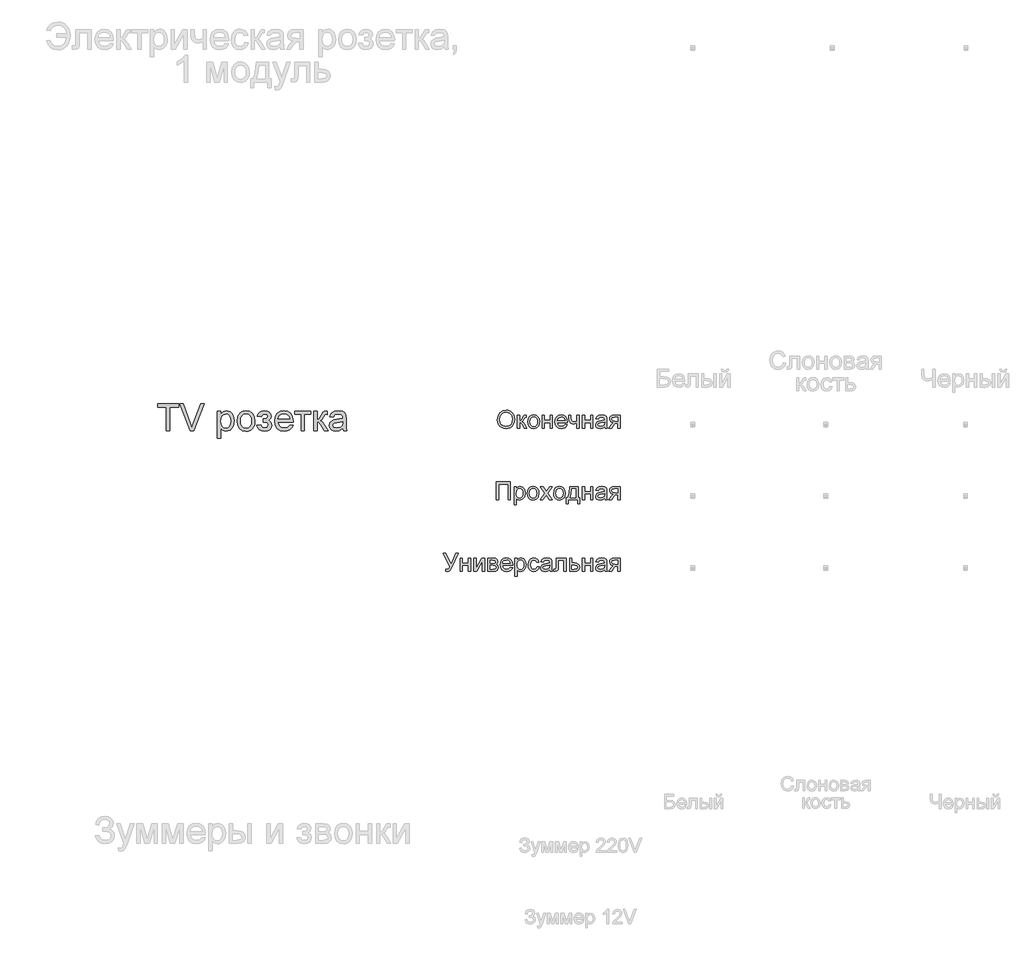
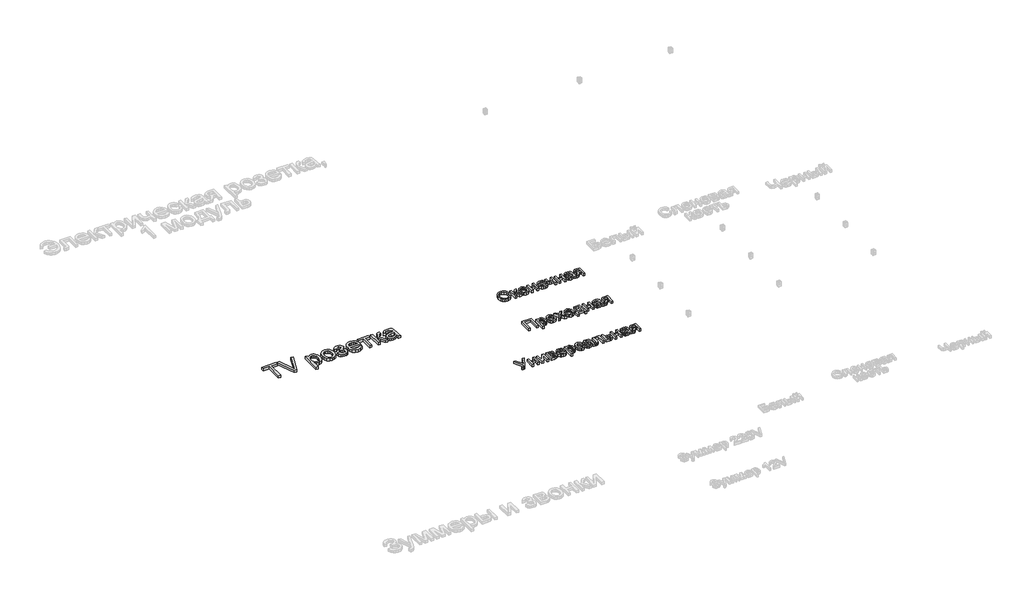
# One storey, part 9 of 47: 4 proxies.
"""IFC4 building model written with IfcOpenShell, lengths in millimetres."""

from ifc_helpers import new_model, si_unit, origin, origin_with_axes, place, context, project, spatial, polyline, outline, extrude, element, save

model = new_model("IFC4")

# Units and contexts
model_context = context("Model", 3, world=origin())
ifc_project = project(units=[si_unit("LENGTHUNIT", "METRE", prefix="MILLI")], contexts=[model_context])

# Site, building, storey
site = spatial("IfcSite", under=ifc_project)
building = spatial("IfcBuilding", under=site)
storey = spatial("IfcBuildingStorey", under=building, Name="Этаж 01", Elevation=0.0)

# Proxies
placement = place(None, origin())
element("IfcBuildingElementProxy", 1, Name="150 мм Arial", ObjectType="150 мм Arial", at=placement, inside=storey, context=model_context, shape_type="SweptSolid", body=[
    extrude(outline(polyline([(-2939.67305, -15476.1363637), (-2939.67305, -15344.2874567), (-2989.1163902, -15344.2874567), (-2989.1163902, -15325.4518985), (-2871.3941517, -15325.4518985), (-2871.3941517, -15344.2874567), (-2920.8374919, -15344.2874567), (-2920.8374919, -15476.1363637), (-2939.67305, -15476.1363637)])), origin_with_axes(), (0.0, 0.0, 1.0), 20.0),
    extrude(outline(polyline([(-2805.6904274, -15476.1363637), (-2865.6551926, -15325.4518985), (-2845.4952593, -15325.4518985), (-2805.3593336, -15434.0138753), (-2797.2291415, -15458.478028), (-2789.209314, -15434.0138753), (-2748.9630237, -15325.4518985), (-2728.8030904, -15325.4518985), (-2786.2294698, -15476.1363637), (-2805.6904274, -15476.1363637)])), origin_with_axes(), (0.0, 0.0, 1.0), 20.0),
    extrude(outline(polyline([(-2654.785233, -15518.5163696), (-2654.785233, -15365.4774596), (-2635.9496748, -15365.4774596), (-2635.9496748, -15383.9451357), (-2622.9266522, -15368.3285451), (-2605.3418928, -15363.1230148), (-2592.6039787, -15364.9440307), (-2581.4663513, -15370.4070783), (-2572.3980601, -15379.1810639), (-2565.8681547, -15390.9348937), (-2560.6074422, -15419.9607831), (-2562.0927657, -15436.0694159), (-2566.5487364, -15450.4765946), (-2573.8327999, -15462.4511535), (-2583.802402, -15471.2619273), (-2595.4136775, -15476.6835882), (-2607.6227612, -15478.4908085), (-2624.0119041, -15473.6531603), (-2635.9496748, -15461.4210839), (-2635.9496748, -15518.5163696), (-2654.785233, -15518.5163696)]), holes=[polyline([(-2635.9496748, -15421.6898285), (-2633.9125283, -15438.575612), (-2627.8010886, -15450.3846241), (-2618.7833812, -15457.3375938), (-2608.0274314, -15459.6552504), (-2597.0967376, -15457.2548203), (-2587.8491039, -15450.0535303), (-2581.5445262, -15437.8122569), (-2579.4430003, -15420.2918769), (-2581.4939425, -15403.4980638), (-2587.6467688, -15391.5235048), (-2596.6506807, -15384.3498059), (-2607.2548792, -15381.958573), (-2617.9004644, -15384.5015573), (-2627.2492656, -15392.1305101), (-2633.7745725, -15404.6063083), (-2635.9496748, -15421.6898285)])]), origin_with_axes(), (0.0, 0.0, 1.0), 20.0),
    extrude(outline(polyline([(-2544.1263288, -15420.8069117), (-2540.0520357, -15394.12627), (-2527.8291564, -15375.3734853), (-2512.7276005, -15366.1856324), (-2494.6462005, -15363.1230148), (-2474.8587476, -15366.8524185), (-2459.0536174, -15378.0406297), (-2448.6931407, -15395.8047316), (-2445.2396485, -15419.2618073), (-2446.7663588, -15438.2905035), (-2451.3464896, -15452.775857), (-2458.8466838, -15463.6237774), (-2469.1335841, -15471.7401739), (-2481.3518649, -15476.8031499), (-2494.6462005, -15478.4908085), (-2514.6727766, -15474.7752004), (-2530.4595127, -15463.6283759), (-2540.7096248, -15445.4917935), (-2544.1263288, -15420.8069117)]), holes=[polyline([(-2525.2907707, -15420.7701235), (-2523.1110698, -15437.8168554), (-2516.5719674, -15449.9615598), (-2506.731124, -15457.2318277), (-2494.6462005, -15459.6552504), (-2482.6164592, -15457.2180321), (-2472.7940099, -15449.9063775), (-2466.2549075, -15437.6007247), (-2464.0752067, -15420.1815123), (-2466.2687031, -15403.631421), (-2472.8491922, -15391.6522635), (-2482.6854371, -15384.3819956), (-2494.6462005, -15381.958573), (-2506.731124, -15384.3727986), (-2516.5719674, -15391.6154753), (-2523.1110698, -15403.7325886), (-2525.2907707, -15420.7701235)])]), origin_with_axes(), (0.0, 0.0, 1.0), 20.0),
    extrude(outline(polyline([(-2398.1507531, -15426.6930236), (-2398.1507531, -15407.8574654), (-2383.2883205, -15407.1217014), (-2375.7835278, -15403.2037582), (-2372.2518607, -15395.0183838), (-2376.9791443, -15385.5086342), (-2389.1744324, -15381.958573), (-2401.7743908, -15385.4902401), (-2409.922977, -15396.0852416), (-2431.1129799, -15393.7307968), (-2425.4935824, -15380.3398922), (-2416.9495231, -15370.7749603), (-2405.4808019, -15365.0360012), (-2391.0874188, -15363.1230148), (-2375.3420694, -15365.454467), (-2363.4226928, -15372.4488234), (-2355.9179001, -15382.6805414), (-2353.4163025, -15394.7240782), (-2356.9755608, -15406.4227257), (-2367.6533357, -15415.4726227), (-2355.2005302, -15427.2080584), (-2351.0618577, -15444.093842), (-2353.6876155, -15457.9583947), (-2361.5648887, -15468.9442707), (-2374.1602485, -15476.1041741), (-2390.940266, -15478.4908085), (-2407.3524015, -15476.2835165), (-2419.9109731, -15469.6616406), (-2428.6159808, -15458.6251808), (-2433.4674247, -15443.174137), (-2412.2774217, -15440.8196922), (-2403.7793476, -15454.7256316), (-2389.1376442, -15459.6552504), (-2375.3788576, -15454.9279667), (-2369.8974159, -15442.8430432), (-2373.3003243, -15432.9470175), (-2380.5475997, -15427.6495168), (-2394.4719332, -15426.582659), (-2398.1507531, -15426.6930236)])), origin_with_axes(), (0.0, 0.0, 1.0), 20.0),
    extrude(outline(polyline([(-2250.0414619, -15443.174137), (-2231.5737857, -15445.5285817), (-2238.2278513, -15459.4437182), (-2248.8458454, -15469.8455816), (-2263.1886447, -15476.3295018), (-2281.0171259, -15478.4908085), (-2303.1176367, -15474.7614048), (-2320.1229819, -15463.5731936), (-2330.9663038, -15445.6527419), (-2334.5807444, -15421.7266167), (-2330.9295156, -15396.9957495), (-2319.9758291, -15378.5004822), (-2303.2004102, -15366.9673817), (-2282.0839836, -15363.1230148), (-2261.6251462, -15366.9581846), (-2245.27739, -15378.463694), (-2234.5582284, -15396.9221731), (-2230.9851745, -15421.6162521), (-2231.0955391, -15426.6930236), (-2315.7451862, -15426.6930236), (-2312.484832, -15440.7921011), (-2304.9110614, -15451.1571763), (-2293.9803677, -15457.5307318), (-2280.6492439, -15459.6552504), (-2262.1815677, -15455.718913), (-2250.0414619, -15443.174137)]), holes=[polyline([(-2315.7451862, -15407.8574654), (-2249.8207327, -15407.8574654), (-2252.3683155, -15397.9062575), (-2257.3623136, -15390.7877409), (-2268.3435911, -15384.1658649), (-2282.15756, -15381.958573), (-2294.8540874, -15383.719808), (-2305.3525198, -15389.0035132), (-2312.6503789, -15397.2394713), (-2315.7451862, -15407.8574654)])]), origin_with_axes(), (0.0, 0.0, 1.0), 20.0),
    extrude(outline(polyline([(-2221.5673954, -15365.4774596), (-2132.0984942, -15365.4774596), (-2132.0984942, -15384.3130177), (-2167.4151657, -15384.3130177), (-2167.4151657, -15476.1363637), (-2186.2507239, -15476.1363637), (-2186.2507239, -15384.3130177), (-2221.5673954, -15384.3130177), (-2221.5673954, -15365.4774596)])), origin_with_axes(), (0.0, 0.0, 1.0), 20.0),
    extrude(outline(polyline([(-2115.6173808, -15365.4774596), (-2096.7818227, -15365.4774596), (-2096.7818227, -15412.566355), (-2084.1634702, -15409.1818406), (-2073.8259862, -15389.4633657), (-2065.2359416, -15372.4488234), (-2057.6575725, -15366.9121994), (-2043.8803918, -15365.4774596), (-2040.2751482, -15365.4774596), (-2040.2751482, -15384.4233823), (-2045.3519197, -15384.3130177), (-2054.5489696, -15386.2995805), (-2061.0236927, -15398.6972038), (-2068.6204559, -15412.1065025), (-2079.2706397, -15418.6731961), (-2067.3880513, -15426.0032448), (-2055.726192, -15441.4450916), (-2035.5662587, -15476.1363637), (-2056.9769908, -15476.1363637), (-2076.7322539, -15442.1808556), (-2086.6650678, -15427.8150637), (-2096.7818227, -15424.3385788), (-2096.7818227, -15476.1363637), (-2115.6173808, -15476.1363637), (-2115.6173808, -15365.4774596)])), origin_with_axes(), (0.0, 0.0, 1.0), 20.0),
    extrude(outline(polyline([(-1953.1606918, -15462.0096951), (-1971.4260328, -15474.7752004), (-1991.6043603, -15478.4908085), (-2007.3451111, -15476.2559254), (-2018.9563866, -15469.551276), (-2026.1162899, -15459.3701418), (-2028.5029244, -15446.7058041), (-2024.8976808, -15431.8065833), (-2015.4247194, -15420.9908527), (-2002.2361499, -15414.8104351), (-1985.9389775, -15411.9777438), (-1953.2710564, -15405.5030207), (-1953.1606918, -15401.3091659), (-1954.4574758, -15392.9030623), (-1958.3478279, -15387.4032265), (-1967.0482371, -15383.3197364), (-1979.1699488, -15381.958573), (-1998.2262362, -15385.5822106), (-2007.3129214, -15398.4396864), (-2026.1484796, -15396.0852416), (-2017.9998934, -15377.6911418), (-2001.5923564, -15366.9121994), (-1976.7419276, -15363.1230148), (-1953.9148498, -15366.470741), (-1941.0205859, -15374.8768446), (-1935.2448386, -15387.6607439), (-1934.3251336, -15404.1418573), (-1934.3251336, -15427.5759404), (-1933.3686404, -15460.2990438), (-1929.6162441, -15476.1363637), (-1948.4518022, -15476.1363637), (-1953.1606918, -15462.0096951)]), holes=[polyline([(-1953.1606918, -15424.3385788), (-1983.5477446, -15430.1143261), (-1999.7529464, -15433.1677467), (-2007.0921922, -15438.1341536), (-2009.6673662, -15445.3814289), (-2004.0571658, -15455.5717602), (-1987.5944465, -15459.6552504), (-1968.5381592, -15455.1486959), (-1956.2509005, -15444.2409948), (-1953.2710564, -15429.6728677), (-1953.1606918, -15424.3385788)])]), origin_with_axes(), (0.0, 0.0, 1.0), 20.0),
])
element("IfcBuildingElementProxy", 2, Name="100 мм Arial", ObjectType="100 мм Arial", at=placement, inside=storey, context=model_context, shape_type="SweptSolid", body=[
    extrude(outline(polyline([(-1087.5478561, -15413.3079892), (-1084.2001299, -15391.0940481), (-1074.1569515, -15374.2879722), (-1058.8224036, -15363.7113649), (-1039.6005694, -15360.1858291), (-1026.4242626, -15361.8412981), (-1014.6091192, -15366.807705), (-1004.7989326, -15374.735562), (-997.6374965, -15385.2753812), (-993.2597007, -15397.9182591), (-991.8004355, -15412.1552923), (-993.3363428, -15426.5823979), (-997.9440648, -15439.4030854), (-1005.3691497, -15449.9612986), (-1015.3571459, -15457.6009814), (-1027.0711218, -15462.2362946), (-1039.6741458, -15463.7813989), (-1053.0527877, -15462.0738133), (-1064.9353761, -15456.9510566), (-1074.7210372, -15448.8760468), (-1081.808897, -15438.3117021), (-1087.5478561, -15413.3079892)]), holes=[polyline([(-1074.9908173, -15413.4306165), (-1072.4800227, -15429.1453091), (-1064.9476388, -15441.119868), (-1053.6260704, -15448.6982371), (-1039.7477222, -15451.2243602), (-1025.6670388, -15448.6737117), (-1014.3270763, -15441.0217662), (-1006.8498748, -15428.6793252), (-1004.3574742, -15412.0571904), (-1008.6249054, -15391.3331713), (-1021.096105, -15377.6111729), (-1039.526993, -15372.7428679), (-1053.0343936, -15375.0881156), (-1064.5184432, -15382.1238587), (-1072.3727238, -15394.6410436), (-1074.9908173, -15413.4306165)])]), origin_with_axes(), (0.0, 0.0, 1.0), 20.0),
    extrude(outline(polyline([(-976.104137, -15388.4391663), (-963.5470982, -15388.4391663), (-963.5470982, -15419.8317632), (-955.1348633, -15417.5754203), (-948.2432072, -15404.4297704), (-942.5165109, -15393.0867422), (-937.4642648, -15389.3956595), (-928.2794776, -15388.4391663), (-925.8759819, -15388.4391663), (-925.8759819, -15401.0697815), (-929.2604963, -15400.9962051), (-935.3918629, -15402.3205803), (-939.708345, -15410.5856624), (-944.7728538, -15419.5251949), (-951.8729763, -15423.9029907), (-943.9512506, -15428.7896898), (-936.1766778, -15439.0842543), (-922.7367222, -15462.2117691), (-937.0105437, -15462.2117691), (-950.1807191, -15439.5747637), (-956.802595, -15429.997569), (-963.5470982, -15427.6799125), (-963.5470982, -15462.2117691), (-976.104137, -15462.2117691), (-976.104137, -15388.4391663)])), origin_with_axes(), (0.0, 0.0, 1.0), 20.0),
    extrude(outline(polyline([(-918.0278327, -15425.3254677), (-915.3116373, -15407.5383732), (-907.1630511, -15395.0365168), (-897.0953472, -15388.9112815), (-885.0410805, -15386.8695365), (-871.8494453, -15389.3558056), (-861.3126918, -15396.8146131), (-854.4057073, -15408.6573476), (-852.1033792, -15424.2953981), (-856.1746066, -15446.638098), (-868.0326696, -15459.2809759), (-885.0410805, -15463.7813989), (-898.3921312, -15461.3043268), (-908.916622, -15453.8731105), (-915.75003, -15441.7820556), (-918.0278327, -15425.3254677)]), holes=[polyline([(-905.4707939, -15425.3009422), (-904.0176601, -15436.6654302), (-899.6582584, -15444.7618998), (-893.0976962, -15449.6087451), (-885.0410805, -15451.2243602), (-877.021253, -15449.599548), (-870.4729535, -15444.7251116), (-866.1135518, -15436.5213431), (-864.6604179, -15424.9085348), (-866.1227489, -15413.8751406), (-870.5097417, -15405.8890356), (-877.0672382, -15401.0421903), (-885.0410805, -15399.4265752), (-893.0976962, -15401.036059), (-899.6582584, -15405.8645102), (-904.0176601, -15413.9425856), (-905.4707939, -15425.3009422)])]), origin_with_axes(), (0.0, 0.0, 1.0), 20.0),
    extrude(outline(polyline([(-837.9767106, -15388.4391663), (-825.4196718, -15388.4391663), (-825.4196718, -15416.6925036), (-792.457445, -15416.6925036), (-792.457445, -15388.4391663), (-779.9004063, -15388.4391663), (-779.9004063, -15462.2117691), (-792.457445, -15462.2117691), (-792.457445, -15429.2495423), (-825.4196718, -15429.2495423), (-825.4196718, -15462.2117691), (-837.9767106, -15462.2117691), (-837.9767106, -15388.4391663)])), origin_with_axes(), (0.0, 0.0, 1.0), 20.0),
    extrude(outline(polyline([(-709.414216, -15440.2369512), (-697.1024319, -15441.8065811), (-701.5384756, -15451.0833387), (-708.6171383, -15458.0179143), (-718.1790045, -15462.3405278), (-730.0646586, -15463.7813989), (-744.7983325, -15461.2951298), (-756.1352294, -15453.8363223), (-763.3641106, -15441.8893545), (-765.7737376, -15425.9386044), (-763.3395851, -15409.4513596), (-756.0371275, -15397.1211814), (-744.8535148, -15389.4324477), (-730.7758972, -15386.8695365), (-717.1366722, -15389.4263163), (-706.2381681, -15397.0966559), (-699.0920603, -15409.4023087), (-696.7100244, -15425.865028), (-696.7836008, -15429.2495423), (-753.2166989, -15429.2495423), (-751.0431294, -15438.6489273), (-745.993949, -15445.5589774), (-738.7068198, -15449.8080145), (-729.819404, -15451.2243602), (-717.5076199, -15448.6001353), (-709.414216, -15440.2369512)]), holes=[polyline([(-753.2166989, -15416.6925036), (-709.2670632, -15416.6925036), (-714.2947838, -15405.3126872), (-721.6156355, -15400.8981032), (-730.8249481, -15399.4265752), (-746.2882546, -15404.123202), (-751.153494, -15409.6138408), (-753.2166989, -15416.6925036)])]), origin_with_axes(), (0.0, 0.0, 1.0), 20.0),
    extrude(outline(polyline([(-688.8618752, -15388.4391663), (-676.3048364, -15388.4391663), (-676.3048364, -15402.5903604), (-675.2870296, -15415.8586377), (-670.394199, -15423.0445993), (-660.6821143, -15426.1102826), (-643.3426096, -15422.3088353), (-643.3426096, -15388.4391663), (-630.7855709, -15388.4391663), (-630.7855709, -15462.2117691), (-643.3426096, -15462.2117691), (-643.3426096, -15434.3508393), (-664.0421032, -15438.6673214), (-678.2791364, -15434.1668983), (-686.6545832, -15423.1427012), (-688.8618752, -15408.7953034), (-688.8618752, -15388.4391663)])), origin_with_axes(), (0.0, 0.0, 1.0), 20.0),
    extrude(outline(polyline([(-611.9500127, -15388.4391663), (-599.392974, -15388.4391663), (-599.392974, -15416.6925036), (-566.4307472, -15416.6925036), (-566.4307472, -15388.4391663), (-553.8737084, -15388.4391663), (-553.8737084, -15462.2117691), (-566.4307472, -15462.2117691), (-566.4307472, -15429.2495423), (-599.392974, -15429.2495423), (-599.392974, -15462.2117691), (-611.9500127, -15462.2117691), (-611.9500127, -15388.4391663)])), origin_with_axes(), (0.0, 0.0, 1.0), 20.0),
    extrude(outline(polyline([(-487.9492549, -15452.79399), (-500.1261489, -15461.3043268), (-513.5783672, -15463.7813989), (-524.0722011, -15462.2914769), (-531.8130514, -15457.8217106), (-536.5863203, -15451.0342878), (-538.17741, -15442.591396), (-535.7739143, -15432.6585821), (-529.4586067, -15425.448095), (-520.666227, -15421.3278167), (-509.8014454, -15419.4393558), (-488.0228313, -15415.1228737), (-487.9492549, -15412.3269705), (-491.4073456, -15403.0563443), (-505.2887596, -15399.4265752), (-517.9929512, -15401.8423337), (-524.0507413, -15410.4139842), (-536.6077801, -15408.8443543), (-531.1753893, -15396.5816211), (-520.2370313, -15389.3956595), (-503.6700788, -15386.8695365), (-488.4520269, -15389.1013539), (-479.855851, -15394.705423), (-476.0053528, -15403.2280225), (-475.3922161, -15414.2154314), (-475.3922161, -15429.8381535), (-474.754554, -15451.6535558), (-472.2529564, -15462.2117691), (-484.8099952, -15462.2117691), (-487.9492549, -15452.79399)]), holes=[polyline([(-487.9492549, -15427.6799125), (-508.2072901, -15431.5304107), (-519.010758, -15433.5660244), (-523.9035885, -15436.8769624), (-525.6203712, -15441.7084792), (-521.8802376, -15448.5020334), (-510.9050914, -15451.2243602), (-498.2008998, -15448.2199905), (-490.0093941, -15440.9481898), (-488.0228313, -15431.2361051), (-487.9492549, -15427.6799125)])]), origin_with_axes(), (0.0, 0.0, 1.0), 20.0),
    extrude(outline(polyline([(-401.6196133, -15388.4391663), (-401.6196133, -15462.2117691), (-414.1766521, -15462.2117691), (-414.1766521, -15433.9584319), (-421.0192572, -15433.9584319), (-430.3389344, -15435.5525872), (-439.0945259, -15446.270216), (-449.1009162, -15462.2117691), (-463.6199923, -15462.2117691), (-451.0139026, -15442.0518358), (-440.3207992, -15431.6039871), (-448.9047125, -15428.9736308), (-454.9379772, -15423.9765671), (-459.6959176, -15409.7517966), (-458.0711055, -15401.1556206), (-453.1966691, -15394.3498037), (-445.2442866, -15389.9168257), (-434.3856364, -15388.4391663), (-401.6196133, -15388.4391663)]), holes=[polyline([(-414.1766521, -15400.9962051), (-430.7313419, -15400.9962051), (-444.1345093, -15403.9024729), (-447.1388789, -15410.7082898), (-442.7120322, -15418.8139564), (-427.0279965, -15421.4013931), (-414.1766521, -15421.4013931), (-414.1766521, -15400.9962051)])]), origin_with_axes(), (0.0, 0.0, 1.0), 20.0),
])
element("IfcBuildingElementProxy", 3, Name="100 мм Arial", ObjectType="100 мм Arial", at=placement, inside=storey, context=model_context, shape_type="SweptSolid", body=[
    extrude(outline(polyline([(-1093.8263755, -15761.7554589), (-1015.3448832, -15761.7554589), (-1015.3448832, -15862.2117691), (-1027.9019219, -15862.2117691), (-1027.9019219, -15774.3124977), (-1081.2693367, -15774.3124977), (-1081.2693367, -15862.2117691), (-1093.8263755, -15862.2117691), (-1093.8263755, -15761.7554589)])), origin_with_axes(), (0.0, 0.0, 1.0), 20.0),
    extrude(outline(polyline([(-994.9396952, -15890.4651063), (-994.9396952, -15788.4391663), (-982.3826564, -15788.4391663), (-982.3826564, -15800.7509504), (-973.7006413, -15790.33989), (-961.9774684, -15786.8695365), (-946.0604407, -15791.7255788), (-935.661643, -15805.410789), (-932.1545013, -15824.761382), (-936.1153641, -15845.1052563), (-947.6178079, -15858.9621448), (-963.4980473, -15863.7813989), (-974.4241426, -15860.5563001), (-982.3826564, -15852.4015825), (-982.3826564, -15890.4651063), (-994.9396952, -15890.4651063)]), holes=[polyline([(-982.3826564, -15825.9140789), (-981.0245587, -15837.1712679), (-976.9502656, -15845.0439426), (-970.9384607, -15849.6792558), (-963.7678274, -15851.2243602), (-956.4806983, -15849.6240735), (-950.3156091, -15844.8232134), (-946.1125574, -15836.6623645), (-944.7115401, -15824.9821112), (-946.0788348, -15813.7862358), (-950.1807191, -15805.8031965), (-956.183327, -15801.0207306), (-963.2527926, -15799.4265752), (-970.3498495, -15801.1218981), (-976.5823836, -15806.2078667), (-980.9325882, -15814.5250655), (-982.3826564, -15825.9140789)])]), origin_with_axes(), (0.0, 0.0, 1.0), 20.0),
    extrude(outline(polyline([(-921.1670924, -15825.3254677), (-918.450897, -15807.5383732), (-910.3023108, -15795.0365168), (-900.2346069, -15788.9112815), (-888.1803402, -15786.8695365), (-874.988705, -15789.3558056), (-864.4519515, -15796.8146131), (-857.544967, -15808.6573476), (-855.2426389, -15824.2953981), (-859.3138663, -15846.638098), (-871.1719293, -15859.2809759), (-888.1803402, -15863.7813989), (-901.5313909, -15861.3043268), (-912.0558817, -15853.8731105), (-918.8892897, -15841.7820556), (-921.1670924, -15825.3254677)]), holes=[polyline([(-908.6100536, -15825.3009422), (-907.1569197, -15836.6654302), (-902.7975181, -15844.7618998), (-896.2369559, -15849.6087451), (-888.1803402, -15851.2243602), (-880.1605127, -15849.599548), (-873.6122132, -15844.7251116), (-869.2528115, -15836.5213431), (-867.7996776, -15824.9085348), (-869.2620086, -15813.8751406), (-873.6490014, -15805.8890356), (-880.2064979, -15801.0421903), (-888.1803402, -15799.4265752), (-896.2369559, -15801.036059), (-902.7975181, -15805.8645102), (-907.1569197, -15813.9425856), (-908.6100536, -15825.3009422)])]), origin_with_axes(), (0.0, 0.0, 1.0), 20.0),
    extrude(outline(polyline([(-848.9641195, -15862.2117691), (-822.1332593, -15825.129264), (-847.3944896, -15788.4391663), (-832.2868024, -15788.4391663), (-820.0976456, -15806.0975021), (-814.4077374, -15814.4361606), (-809.4781187, -15807.618081), (-795.5967047, -15788.4391663), (-780.4890174, -15788.4391663), (-807.025572, -15825.129264), (-781.4700361, -15862.2117691), (-796.5777234, -15862.2117691), (-811.9551908, -15839.9181202), (-814.7756194, -15835.8468928), (-833.8564322, -15862.2117691), (-848.9641195, -15862.2117691)])), origin_with_axes(), (0.0, 0.0, 1.0), 20.0),
    extrude(outline(polyline([(-773.6218869, -15825.3254677), (-770.9056915, -15807.5383732), (-762.7571053, -15795.0365168), (-752.6894013, -15788.9112815), (-740.6351346, -15786.8695365), (-727.4434994, -15789.3558056), (-716.9067459, -15796.8146131), (-709.9997615, -15808.6573476), (-707.6974333, -15824.2953981), (-711.7686607, -15846.638098), (-723.6267237, -15859.2809759), (-740.6351346, -15863.7813989), (-753.9861854, -15861.3043268), (-764.5106761, -15853.8731105), (-771.3440842, -15841.7820556), (-773.6218869, -15825.3254677)]), holes=[polyline([(-761.0648481, -15825.3009422), (-759.6117142, -15836.6654302), (-755.2523126, -15844.7618998), (-748.6917503, -15849.6087451), (-740.6351346, -15851.2243602), (-732.6153071, -15849.599548), (-726.0670076, -15844.7251116), (-721.707606, -15836.5213431), (-720.2544721, -15824.9085348), (-721.716803, -15813.8751406), (-726.1037958, -15805.8890356), (-732.6612924, -15801.0421903), (-740.6351346, -15799.4265752), (-748.6917503, -15801.036059), (-755.2523126, -15805.8645102), (-759.6117142, -15813.9425856), (-761.0648481, -15825.3009422)])]), origin_with_axes(), (0.0, 0.0, 1.0), 20.0),
    extrude(outline(polyline([(-682.5833558, -15788.4391663), (-635.4944604, -15788.4391663), (-635.4944604, -15849.6547303), (-626.0766813, -15849.6547303), (-626.0766813, -15882.6169571), (-638.6337201, -15882.6169571), (-638.6337201, -15862.2117691), (-690.431505, -15862.2117691), (-690.431505, -15882.6169571), (-702.9885438, -15882.6169571), (-702.9885438, -15849.6547303), (-695.1403946, -15849.6547303), (-685.4405726, -15825.7056124), (-682.5833558, -15788.4391663)]), holes=[polyline([(-671.5959469, -15800.9962051), (-674.5390028, -15829.6051616), (-681.0137259, -15849.6547303), (-648.0514992, -15849.6547303), (-648.0514992, -15800.9962051), (-671.5959469, -15800.9962051)])]), origin_with_axes(), (0.0, 0.0, 1.0), 20.0),
    extrude(outline(polyline([(-611.9500127, -15788.4391663), (-599.392974, -15788.4391663), (-599.392974, -15816.6925036), (-566.4307472, -15816.6925036), (-566.4307472, -15788.4391663), (-553.8737084, -15788.4391663), (-553.8737084, -15862.2117691), (-566.4307472, -15862.2117691), (-566.4307472, -15829.2495423), (-599.392974, -15829.2495423), (-599.392974, -15862.2117691), (-611.9500127, -15862.2117691), (-611.9500127, -15788.4391663)])), origin_with_axes(), (0.0, 0.0, 1.0), 20.0),
    extrude(outline(polyline([(-487.9492549, -15852.79399), (-500.1261489, -15861.3043268), (-513.5783672, -15863.7813989), (-524.0722011, -15862.2914769), (-531.8130514, -15857.8217106), (-536.5863203, -15851.0342878), (-538.17741, -15842.591396), (-535.7739143, -15832.6585821), (-529.4586067, -15825.448095), (-520.666227, -15821.3278167), (-509.8014454, -15819.4393558), (-488.0228313, -15815.1228737), (-487.9492549, -15812.3269705), (-491.4073456, -15803.0563443), (-505.2887596, -15799.4265752), (-517.9929512, -15801.8423337), (-524.0507413, -15810.4139842), (-536.6077801, -15808.8443543), (-531.1753893, -15796.5816211), (-520.2370313, -15789.3956595), (-503.6700788, -15786.8695365), (-488.4520269, -15789.1013539), (-479.855851, -15794.705423), (-476.0053528, -15803.2280225), (-475.3922161, -15814.2154314), (-475.3922161, -15829.8381535), (-474.754554, -15851.6535558), (-472.2529564, -15862.2117691), (-484.8099952, -15862.2117691), (-487.9492549, -15852.79399)]), holes=[polyline([(-487.9492549, -15827.6799125), (-508.2072901, -15831.5304107), (-519.010758, -15833.5660244), (-523.9035885, -15836.8769624), (-525.6203712, -15841.7084792), (-521.8802376, -15848.5020334), (-510.9050914, -15851.2243602), (-498.2008998, -15848.2199905), (-490.0093941, -15840.9481898), (-488.0228313, -15831.2361051), (-487.9492549, -15827.6799125)])]), origin_with_axes(), (0.0, 0.0, 1.0), 20.0),
    extrude(outline(polyline([(-401.6196133, -15788.4391663), (-401.6196133, -15862.2117691), (-414.1766521, -15862.2117691), (-414.1766521, -15833.9584319), (-421.0192572, -15833.9584319), (-430.3389344, -15835.5525872), (-439.0945259, -15846.270216), (-449.1009162, -15862.2117691), (-463.6199923, -15862.2117691), (-451.0139026, -15842.0518358), (-440.3207992, -15831.6039871), (-448.9047125, -15828.9736308), (-454.9379772, -15823.9765671), (-459.6959176, -15809.7517966), (-458.0711055, -15801.1556206), (-453.1966691, -15794.3498037), (-445.2442866, -15789.9168257), (-434.3856364, -15788.4391663), (-401.6196133, -15788.4391663)]), holes=[polyline([(-414.1766521, -15800.9962051), (-430.7313419, -15800.9962051), (-444.1345093, -15803.9024729), (-447.1388789, -15810.7082898), (-442.7120322, -15818.8139564), (-427.0279965, -15821.4013931), (-414.1766521, -15821.4013931), (-414.1766521, -15800.9962051)])]), origin_with_axes(), (0.0, 0.0, 1.0), 20.0),
])
element("IfcBuildingElementProxy", 4, Name="100 мм Arial", ObjectType="100 мм Arial", at=placement, inside=storey, context=model_context, shape_type="SweptSolid", body=[
    extrude(outline(polyline([(-1391.2712313, -16161.7554589), (-1377.3652919, -16161.7554589), (-1347.3215956, -16221.2542403), (-1320.2945317, -16161.7554589), (-1306.5112196, -16161.7554589), (-1344.6483198, -16240.016222), (-1355.022592, -16259.2441877), (-1366.6231376, -16263.7813989), (-1377.9293776, -16262.2117691), (-1377.9293776, -16251.2243602), (-1368.0456147, -16251.2243602), (-1360.7125002, -16248.428457), (-1353.9189461, -16235.69974), (-1391.2712313, -16161.7554589)])), origin_with_axes(), (0.0, 0.0, 1.0), 20.0),
    extrude(outline(polyline([(-1296.3086256, -16188.4391663), (-1283.7515868, -16188.4391663), (-1283.7515868, -16216.6925036), (-1250.7893601, -16216.6925036), (-1250.7893601, -16188.4391663), (-1238.2323213, -16188.4391663), (-1238.2323213, -16262.2117691), (-1250.7893601, -16262.2117691), (-1250.7893601, -16229.2495423), (-1283.7515868, -16229.2495423), (-1283.7515868, -16262.2117691), (-1296.3086256, -16262.2117691), (-1296.3086256, -16188.4391663)])), origin_with_axes(), (0.0, 0.0, 1.0), 20.0),
    extrude(outline(polyline([(-1219.3967632, -16188.4391663), (-1206.8397244, -16188.4391663), (-1206.8397244, -16244.7005861), (-1175.9866877, -16188.4391663), (-1159.750829, -16188.4391663), (-1159.750829, -16262.2117691), (-1172.3078678, -16262.2117691), (-1172.3078678, -16206.2937058), (-1202.9647007, -16262.2117691), (-1219.3967632, -16262.2117691), (-1219.3967632, -16188.4391663)])), origin_with_axes(), (0.0, 0.0, 1.0), 20.0),
    extrude(outline(polyline([(-1140.9152709, -16188.4391663), (-1113.2505448, -16188.4391663), (-1098.0815439, -16190.1191608), (-1089.5466816, -16196.2750528), (-1085.9782262, -16207.0049443), (-1088.1364673, -16215.7237476), (-1094.6357159, -16221.9409533), (-1086.1989554, -16228.7467703), (-1082.8389665, -16240.5803078), (-1084.9665508, -16250.151371), (-1090.0249282, -16256.8897429), (-1098.0324929, -16260.8812625), (-1109.0076391, -16262.2117691), (-1140.9152709, -16262.2117691), (-1140.9152709, -16188.4391663)]), holes=[polyline([(-1128.3582321, -16216.6925036), (-1115.9483461, -16216.6925036), (-1105.7089639, -16216.0548414), (-1100.7302942, -16213.5041929), (-1098.535265, -16208.8934053), (-1102.3857632, -16202.7375132), (-1115.5559386, -16200.9962051), (-1128.3582321, -16200.9962051), (-1128.3582321, -16216.6925036)]), polyline([(-1128.3582321, -16249.6547303), (-1112.9562392, -16249.6547303), (-1099.2955545, -16247.3861247), (-1095.3960053, -16239.5502382), (-1097.5419836, -16233.5047107), (-1103.1337899, -16229.9853063), (-1114.1825125, -16229.2495423), (-1128.3582321, -16229.2495423), (-1128.3582321, -16249.6547303)])]), origin_with_axes(), (0.0, 0.0, 1.0), 20.0),
    extrude(outline(polyline([(-1015.492036, -16240.2369512), (-1003.1802519, -16241.8065811), (-1007.6162956, -16251.0833387), (-1014.6949583, -16258.0179143), (-1024.2568245, -16262.3405278), (-1036.1424786, -16263.7813989), (-1050.8761525, -16261.2951298), (-1062.2130493, -16253.8363223), (-1069.4419306, -16241.8893545), (-1071.8515576, -16225.9386044), (-1069.4174051, -16209.4513596), (-1062.1149475, -16197.1211814), (-1050.9313348, -16189.4324477), (-1036.8537171, -16186.8695365), (-1023.2144922, -16189.4263163), (-1012.3159881, -16197.0966559), (-1005.1698803, -16209.4023087), (-1002.7878444, -16225.865028), (-1002.8614208, -16229.2495423), (-1059.2945189, -16229.2495423), (-1057.1209494, -16238.6489273), (-1052.071769, -16245.5589774), (-1044.7846398, -16249.8080145), (-1035.897224, -16251.2243602), (-1023.5854399, -16248.6001353), (-1015.492036, -16240.2369512)]), holes=[polyline([(-1059.2945189, -16216.6925036), (-1015.3448832, -16216.6925036), (-1020.3726038, -16205.3126872), (-1027.6934555, -16200.8981032), (-1036.9027681, -16199.4265752), (-1052.3660746, -16204.123202), (-1057.231314, -16209.6138408), (-1059.2945189, -16216.6925036)])]), origin_with_axes(), (0.0, 0.0, 1.0), 20.0),
    extrude(outline(polyline([(-990.2308056, -16290.4651063), (-990.2308056, -16188.4391663), (-977.6737669, -16188.4391663), (-977.6737669, -16200.7509504), (-968.9917518, -16190.33989), (-957.2685789, -16186.8695365), (-941.3515512, -16191.7255788), (-930.9527535, -16205.410789), (-927.4456118, -16224.761382), (-931.4064746, -16245.1052563), (-942.9089183, -16258.9621448), (-958.7891578, -16263.7813989), (-969.715253, -16260.5563001), (-977.6737669, -16252.4015825), (-977.6737669, -16290.4651063), (-990.2308056, -16290.4651063)]), holes=[polyline([(-977.6737669, -16225.9140789), (-976.3156692, -16237.1712679), (-972.2413761, -16245.0439426), (-966.2295711, -16249.6792558), (-959.0589379, -16251.2243602), (-951.7718087, -16249.6240735), (-945.6067196, -16244.8232134), (-941.4036678, -16236.6623645), (-940.0026506, -16224.9821112), (-941.3699453, -16213.7862358), (-945.4718295, -16205.8031965), (-951.4744374, -16201.0207306), (-958.5439031, -16199.4265752), (-965.6409599, -16201.1218981), (-971.8734941, -16206.2078667), (-976.2236987, -16214.5250655), (-977.6737669, -16225.9140789)])]), origin_with_axes(), (0.0, 0.0, 1.0), 20.0),
    extrude(outline(polyline([(-866.2300478, -16235.5280617), (-853.673009, -16237.0976915), (-857.1740193, -16248.2659758), (-863.7529757, -16256.7058019), (-872.79061, -16262.0124997), (-883.6676544, -16263.7813989), (-897.0248365, -16261.3135239), (-907.4696194, -16253.9098987), (-914.211057, -16241.8954859), (-916.4582029, -16225.5952478), (-912.6199674, -16204.7363387), (-900.9213199, -16191.3331713), (-883.8393326, -16186.8695365), (-873.2290027, -16188.4023781), (-864.7462571, -16193.0009031), (-858.6608757, -16200.4198566), (-855.2426389, -16210.4139842), (-867.7996776, -16211.983614), (-873.6244759, -16202.5780977), (-883.7412308, -16199.4265752), (-891.8560944, -16200.977811), (-898.297095, -16205.6315182), (-902.5001468, -16213.639083), (-903.9011641, -16225.2518913), (-902.5308037, -16237.0210495), (-898.4197224, -16245.0562054), (-892.0952177, -16249.6823215), (-884.0845873, -16251.2243602), (-872.2510498, -16247.3738619), (-866.2300478, -16235.5280617)])), origin_with_axes(), (0.0, 0.0, 1.0), 20.0),
    extrude(outline(polyline([(-795.5967047, -16252.79399), (-807.7735988, -16261.3043268), (-821.225817, -16263.7813989), (-831.719651, -16262.2914769), (-839.4605013, -16257.8217106), (-844.2337702, -16251.0342878), (-845.8248598, -16242.591396), (-843.4213641, -16232.6585821), (-837.1060565, -16225.448095), (-828.3136768, -16221.3278167), (-817.4488952, -16219.4393558), (-795.6702811, -16215.1228737), (-795.5967047, -16212.3269705), (-799.0547955, -16203.0563443), (-812.9362094, -16199.4265752), (-825.640401, -16201.8423337), (-831.6981912, -16210.4139842), (-844.2552299, -16208.8443543), (-838.8228391, -16196.5816211), (-827.8844812, -16189.3956595), (-811.3175286, -16186.8695365), (-796.0994768, -16189.1013539), (-787.5033008, -16194.705423), (-783.6528026, -16203.2280225), (-783.0396659, -16214.2154314), (-783.0396659, -16229.8381535), (-782.4020038, -16251.6535558), (-779.9004063, -16262.2117691), (-792.457445, -16262.2117691), (-795.5967047, -16252.79399)]), holes=[polyline([(-795.5967047, -16227.6799125), (-815.8547399, -16231.5304107), (-826.6582078, -16233.5660244), (-831.5510384, -16236.8769624), (-833.267821, -16241.7084792), (-829.5276874, -16248.5020334), (-818.5525412, -16251.2243602), (-805.8483496, -16248.2199905), (-797.6568439, -16240.9481898), (-795.6702811, -16231.2361051), (-795.5967047, -16227.6799125)])]), origin_with_axes(), (0.0, 0.0, 1.0), 20.0),
    extrude(outline(polyline([(-759.4952183, -16188.4391663), (-702.9885438, -16188.4391663), (-702.9885438, -16262.1381927), (-715.5455826, -16262.1381927), (-715.5455826, -16200.9962051), (-746.9381795, -16200.9962051), (-746.9381795, -16236.1902493), (-747.7843081, -16252.426108), (-752.4318839, -16259.2809759), (-763.4192929, -16262.2117691), (-773.6218869, -16261.574107), (-773.6218869, -16249.6547303), (-768.0055551, -16249.6547303), (-762.3279096, -16248.8821781), (-760.059304, -16246.4296315), (-759.4952183, -16235.4790108), (-759.4952183, -16188.4391663)])), origin_with_axes(), (0.0, 0.0, 1.0), 20.0),
    extrude(outline(polyline([(-684.1529856, -16188.4391663), (-671.5959469, -16188.4391663), (-671.5959469, -16215.1228737), (-657.1259217, -16215.1228737), (-644.5811457, -16216.6955692), (-635.2982567, -16221.4136558), (-629.5592976, -16228.8969887), (-627.6463112, -16238.7654233), (-629.274189, -16247.750941), (-634.1578225, -16255.3323758), (-642.6221741, -16260.4919208), (-654.9922062, -16262.2117691), (-684.1529856, -16262.2117691), (-684.1529856, -16188.4391663)]), holes=[polyline([(-671.5959469, -16249.6547303), (-659.872774, -16249.6547303), (-644.7282985, -16247.0182427), (-640.2033499, -16238.7899487), (-643.5510761, -16231.0644268), (-658.3767205, -16227.6799125), (-671.5959469, -16227.6799125), (-671.5959469, -16249.6547303)])]), origin_with_axes(), (0.0, 0.0, 1.0), 20.0),
    extrude(outline(polyline([(-611.9500127, -16188.4391663), (-599.392974, -16188.4391663), (-599.392974, -16216.6925036), (-566.4307472, -16216.6925036), (-566.4307472, -16188.4391663), (-553.8737084, -16188.4391663), (-553.8737084, -16262.2117691), (-566.4307472, -16262.2117691), (-566.4307472, -16229.2495423), (-599.392974, -16229.2495423), (-599.392974, -16262.2117691), (-611.9500127, -16262.2117691), (-611.9500127, -16188.4391663)])), origin_with_axes(), (0.0, 0.0, 1.0), 20.0),
    extrude(outline(polyline([(-487.9492549, -16252.79399), (-500.1261489, -16261.3043268), (-513.5783672, -16263.7813989), (-524.0722011, -16262.2914769), (-531.8130514, -16257.8217106), (-536.5863203, -16251.0342878), (-538.17741, -16242.591396), (-535.7739143, -16232.6585821), (-529.4586067, -16225.448095), (-520.666227, -16221.3278167), (-509.8014454, -16219.4393558), (-488.0228313, -16215.1228737), (-487.9492549, -16212.3269705), (-491.4073456, -16203.0563443), (-505.2887596, -16199.4265752), (-517.9929512, -16201.8423337), (-524.0507413, -16210.4139842), (-536.6077801, -16208.8443543), (-531.1753893, -16196.5816211), (-520.2370313, -16189.3956595), (-503.6700788, -16186.8695365), (-488.4520269, -16189.1013539), (-479.855851, -16194.705423), (-476.0053528, -16203.2280225), (-475.3922161, -16214.2154314), (-475.3922161, -16229.8381535), (-474.754554, -16251.6535558), (-472.2529564, -16262.2117691), (-484.8099952, -16262.2117691), (-487.9492549, -16252.79399)]), holes=[polyline([(-487.9492549, -16227.6799125), (-508.2072901, -16231.5304107), (-519.010758, -16233.5660244), (-523.9035885, -16236.8769624), (-525.6203712, -16241.7084792), (-521.8802376, -16248.5020334), (-510.9050914, -16251.2243602), (-498.2008998, -16248.2199905), (-490.0093941, -16240.9481898), (-488.0228313, -16231.2361051), (-487.9492549, -16227.6799125)])]), origin_with_axes(), (0.0, 0.0, 1.0), 20.0),
    extrude(outline(polyline([(-401.6196133, -16188.4391663), (-401.6196133, -16262.2117691), (-414.1766521, -16262.2117691), (-414.1766521, -16233.9584319), (-421.0192572, -16233.9584319), (-430.3389344, -16235.5525872), (-439.0945259, -16246.270216), (-449.1009162, -16262.2117691), (-463.6199923, -16262.2117691), (-451.0139026, -16242.0518358), (-440.3207992, -16231.6039871), (-448.9047125, -16228.9736308), (-454.9379772, -16223.9765671), (-459.6959176, -16209.7517966), (-458.0711055, -16201.1556206), (-453.1966691, -16194.3498037), (-445.2442866, -16189.9168257), (-434.3856364, -16188.4391663), (-401.6196133, -16188.4391663)]), holes=[polyline([(-414.1766521, -16200.9962051), (-430.7313419, -16200.9962051), (-444.1345093, -16203.9024729), (-447.1388789, -16210.7082898), (-442.7120322, -16218.8139564), (-427.0279965, -16221.4013931), (-414.1766521, -16221.4013931), (-414.1766521, -16200.9962051)])]), origin_with_axes(), (0.0, 0.0, 1.0), 20.0),
])

save(model, "model.ifc")
